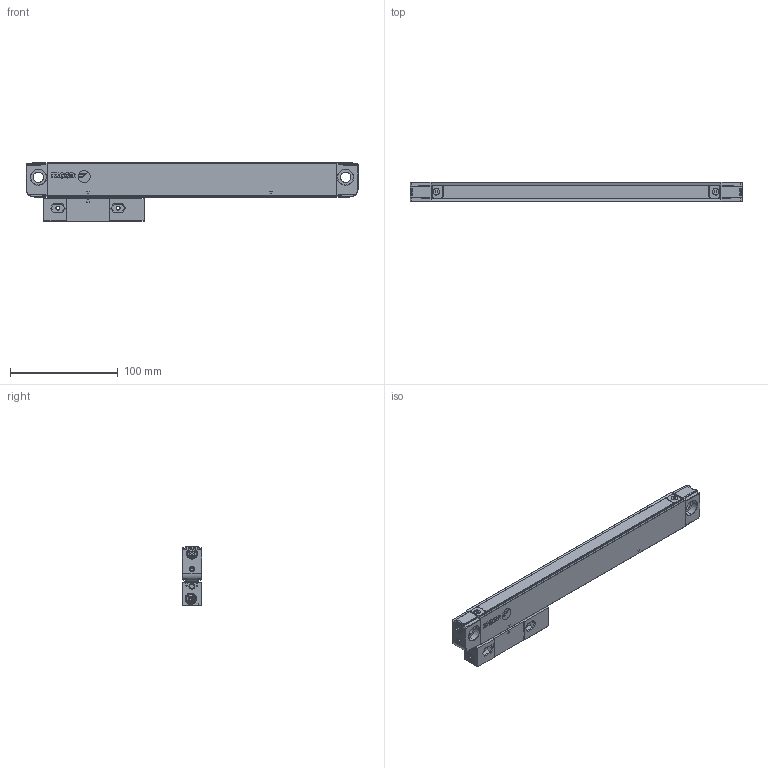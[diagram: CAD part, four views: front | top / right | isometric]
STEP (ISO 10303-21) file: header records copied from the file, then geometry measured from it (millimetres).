
FILE_DESCRIPTION(('Creo Elements/Direct Modeling STEP Export'),'2;1');
FILE_NAME('REGLA_S2-170-T.stp','2018-10-31T15:28:42',(''),(''),'Creo Elements/Direct Modeling STEP processor for AP214 (Solid Model)','Creo Elements/Direct Modeling 19.0G 27-Nov-2017 (C) Parametric Technology GmbH','');
FILE_SCHEMA(('AUTOMOTIVE_DESIGN { 1 0 10303 214 1 1 1 1 }'));
Length unit declared in the file: millimetre
Products named in the file (3): REGLA_S-170-T; CABEZA_ROSCADA_REGLA_S; REGLA_S2-170-T
Assembly tree (2 placements, depth 2):
  REGLA_S2-170-T
    CABEZA_ROSCADA_REGLA_S
    REGLA_S-170-T
Bounding box: 308 x 18.3 x 54.3 mm (x, y, z)
Volume: 188254.2 mm3; surface area: 53849.2 mm2
Topology: 2 solids, 23 shells, 883 faces, 2253 edges, 1450 vertices
Faces by surface type: plane 355, cylinder 303, cone 174, bspline 38, torus 6, sphere 4, extrusion 3
Entity records: 30961 total; most frequent: CARTESIAN_POINT 7372, ORIENTED_EDGE 4478, DIRECTION 3797, EDGE_CURVE 2239, VERTEX_POINT 1450, AXIS2_PLACEMENT_3D 1300, VECTOR 1197, LINE 1194
